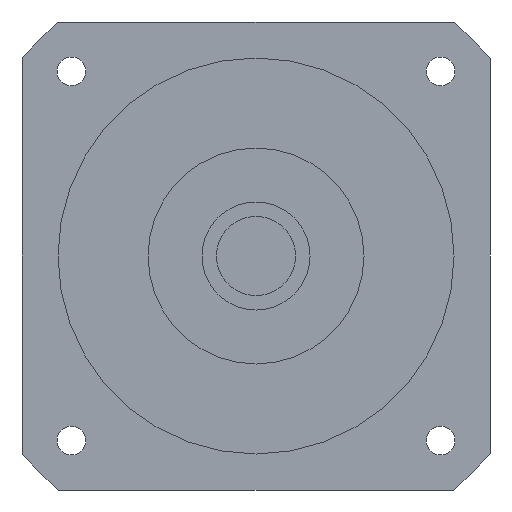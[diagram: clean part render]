
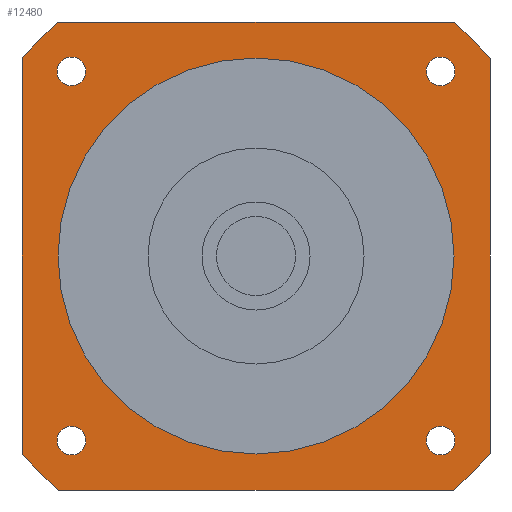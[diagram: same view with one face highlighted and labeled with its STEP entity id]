
A CAD part, left-side view. The second image highlights one B-rep face of the part: STEP entity #12480.
In plain terms, the highlighted planar face has unit normal (-1, 0, 0) as drawn and (0, 0, -1) by its records, which use the part's own axes.
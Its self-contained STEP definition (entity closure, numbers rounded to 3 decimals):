
#8880=CARTESIAN_POINT('',(47.265,-51.265,-70.4));
#8890=VERTEX_POINT('',#8880);
#8920=CARTESIAN_POINT('',(51.265,-51.265,-70.4));
#8930=DIRECTION('',(0.,0.,-1.));
#8940=DIRECTION('',(1.,0.,0.));
#8950=AXIS2_PLACEMENT_3D('',#8920,#8930,#8940);
#8960=CIRCLE('',#8950,4.);
#8970=CARTESIAN_POINT('',(55.265,-51.265,-70.4));
#8980=VERTEX_POINT('',#8970);
#8990=EDGE_CURVE('',#8980,#8890,#8960,.T.);
#9230=CARTESIAN_POINT('',(65.,-54.772,-70.4));
#9240=VERTEX_POINT('',#9230);
#9290=CARTESIAN_POINT('',(0.,0.,
-70.4));
#9300=DIRECTION('',(0.,0.,-1.));
#9310=DIRECTION('',(1.,0.,0.));
#9320=AXIS2_PLACEMENT_3D('',#9290,#9300,#9310);
#9330=CIRCLE('',#9320,85.);
#9340=CARTESIAN_POINT('',(54.772,-65.,-70.4));
#9350=VERTEX_POINT('',#9340);
#9360=EDGE_CURVE('',#9240,#9350,#9330,.T.);
#11010=CARTESIAN_POINT('',(-51.265,-47.265,-70.4));
#11020=VERTEX_POINT('',#11010);
#11050=CARTESIAN_POINT('',(-51.265,-51.265,-70.4));
#11060=DIRECTION('',(0.,0.,-1.));
#11070=DIRECTION('',(0.,-1.,0.));
#11080=AXIS2_PLACEMENT_3D('',#11050,#11060,#11070);
#11090=CIRCLE('',#11080,4.);
#11100=CARTESIAN_POINT('',(-51.265,-55.265,-70.4));
#11110=VERTEX_POINT('',#11100);
#11120=EDGE_CURVE('',#11110,#11020,#11090,.T.);
#11240=CARTESIAN_POINT('',(65.,65.,-70.4));
#11250=DIRECTION('',(0.,0.,-1.));
#11260=DIRECTION('',(1.,0.,0.));
#11270=AXIS2_PLACEMENT_3D('',#11240,#11250,#11260);
#11280=PLANE('',#11270);
#11290=ORIENTED_EDGE('',*,*,#11120,.F.);
#11300=EDGE_CURVE('',#11020,#11110,#11090,.T.);
#11310=ORIENTED_EDGE('',*,*,#11300,.F.);
#11320=EDGE_LOOP('',(#11310,#11290));
#11330=FACE_BOUND('',#11320,.T.);
#11340=CARTESIAN_POINT('',(-51.265,51.265,-70.4));
#11350=DIRECTION('',(0.,0.,-1.));
#11360=DIRECTION('',(-1.,0.,0.));
#11370=AXIS2_PLACEMENT_3D('',#11340,#11350,#11360);
#11380=CIRCLE('',#11370,4.);
#11390=CARTESIAN_POINT('',(-55.265,51.265,-70.4));
#11400=VERTEX_POINT('',#11390);
#11410=CARTESIAN_POINT('',(-47.265,51.265,-70.4));
#11420=VERTEX_POINT('',#11410);
#11430=EDGE_CURVE('',#11400,#11420,#11380,.T.);
#11440=ORIENTED_EDGE('',*,*,#11430,.F.);
#11450=EDGE_CURVE('',#11420,#11400,#11380,.T.);
#11460=ORIENTED_EDGE('',*,*,#11450,.F.);
#11470=EDGE_LOOP('',(#11460,#11440));
#11480=FACE_BOUND('',#11470,.T.);
#11490=CARTESIAN_POINT('',(51.265,51.265,-70.4));
#11500=DIRECTION('',(0.,0.,-1.));
#11510=DIRECTION('',(0.,1.,0.));
#11520=AXIS2_PLACEMENT_3D('',#11490,#11500,#11510);
#11530=CIRCLE('',#11520,4.);
#11540=CARTESIAN_POINT('',(51.265,55.265,-70.4));
#11550=VERTEX_POINT('',#11540);
#11560=CARTESIAN_POINT('',(51.265,47.265,-70.4));
#11570=VERTEX_POINT('',#11560);
#11580=EDGE_CURVE('',#11550,#11570,#11530,.T.);
#11590=ORIENTED_EDGE('',*,*,#11580,.F.);
#11600=EDGE_CURVE('',#11570,#11550,#11530,.T.);
#11610=ORIENTED_EDGE('',*,*,#11600,.F.);
#11620=EDGE_LOOP('',(#11610,#11590));
#11630=FACE_BOUND('',#11620,.T.);
#11640=CARTESIAN_POINT('',(0.,0.,
-70.4));
#11650=DIRECTION('',(0.,0.,1.));
#11660=DIRECTION('',(0.,1.,0.));
#11670=AXIS2_PLACEMENT_3D('',#11640,#11650,#11660);
#11680=CIRCLE('',#11670,55.);
#11690=CARTESIAN_POINT('',(-55.,0.,-70.4));
#11700=VERTEX_POINT('',#11690);
#11710=CARTESIAN_POINT('',(55.,0.,-70.4));
#11720=VERTEX_POINT('',#11710);
#11730=EDGE_CURVE('',#11700,#11720,#11680,.T.);
#11740=ORIENTED_EDGE('',*,*,#11730,.T.);
#11750=CARTESIAN_POINT('',(0.,55.,-70.4));
#11760=VERTEX_POINT('',#11750);
#11770=EDGE_CURVE('',#11760,#11700,#11680,.T.);
#11780=ORIENTED_EDGE('',*,*,#11770,.T.);
#11790=EDGE_CURVE('',#11720,#11760,#11680,.T.);
#11800=ORIENTED_EDGE('',*,*,#11790,.T.);
#11810=EDGE_LOOP('',(#11800,#11780,#11740));
#11820=FACE_BOUND('',#11810,.T.);
#11830=CARTESIAN_POINT('',(-65.,65.,-70.4));
#11840=DIRECTION('',(1.,0.,0.));
#11850=VECTOR('',#11840,1000.);
#11860=LINE('',#11830,#11850);
#11870=CARTESIAN_POINT('',(-54.772,65.,-70.4));
#11880=VERTEX_POINT('',#11870);
#11890=CARTESIAN_POINT('',(54.772,65.,-70.4));
#11900=VERTEX_POINT('',#11890);
#11910=EDGE_CURVE('',#11880,#11900,#11860,.T.);
#11920=ORIENTED_EDGE('',*,*,#11910,.T.);
#11930=CARTESIAN_POINT('',(0.,0.,
-70.4));
#11940=DIRECTION('',(0.,0.,-1.));
#11950=DIRECTION('',(1.,0.,0.));
#11960=AXIS2_PLACEMENT_3D('',#11930,#11940,#11950);
#11970=CIRCLE('',#11960,85.);
#11980=CARTESIAN_POINT('',(-65.,54.772,-70.4));
#11990=VERTEX_POINT('',#11980);
#12000=EDGE_CURVE('',#11990,#11880,#11970,.T.);
#12010=ORIENTED_EDGE('',*,*,#12000,.T.);
#12020=CARTESIAN_POINT('',(-65.,-65.,-70.4));
#12030=DIRECTION('',(0.,1.,0.));
#12040=VECTOR('',#12030,1000.);
#12050=LINE('',#12020,#12040);
#12060=CARTESIAN_POINT('',(-65.,-54.772,-70.4));
#12070=VERTEX_POINT('',#12060);
#12080=EDGE_CURVE('',#12070,#11990,#12050,.T.);
#12090=ORIENTED_EDGE('',*,*,#12080,.T.);
#12100=CARTESIAN_POINT('',(0.,0.,
-70.4));
#12110=DIRECTION('',(0.,0.,-1.));
#12120=DIRECTION('',(1.,0.,0.));
#12130=AXIS2_PLACEMENT_3D('',#12100,#12110,#12120);
#12140=CIRCLE('',#12130,85.);
#12150=CARTESIAN_POINT('',(-54.772,-65.,-70.4));
#12160=VERTEX_POINT('',#12150);
#12170=EDGE_CURVE('',#12160,#12070,#12140,.T.);
#12180=ORIENTED_EDGE('',*,*,#12170,.T.);
#12190=CARTESIAN_POINT('',(65.,-65.,-70.4));
#12200=DIRECTION('',(-1.,0.,0.));
#12210=VECTOR('',#12200,1000.);
#12220=LINE('',#12190,#12210);
#12230=EDGE_CURVE('',#9350,#12160,#12220,.T.);
#12240=ORIENTED_EDGE('',*,*,#12230,.T.);
#12250=ORIENTED_EDGE('',*,*,#9360,.T.);
#12260=CARTESIAN_POINT('',(65.,65.,-70.4));
#12270=DIRECTION('',(0.,-1.,0.));
#12280=VECTOR('',#12270,1000.);
#12290=LINE('',#12260,#12280);
#12300=CARTESIAN_POINT('',(65.,54.772,-70.4));
#12310=VERTEX_POINT('',#12300);
#12320=EDGE_CURVE('',#12310,#9240,#12290,.T.);
#12330=ORIENTED_EDGE('',*,*,#12320,.T.);
#12340=CARTESIAN_POINT('',(0.,0.,
-70.4));
#12350=DIRECTION('',(0.,0.,-1.));
#12360=DIRECTION('',(1.,0.,0.));
#12370=AXIS2_PLACEMENT_3D('',#12340,#12350,#12360);
#12380=CIRCLE('',#12370,85.);
#12390=EDGE_CURVE('',#11900,#12310,#12380,.T.);
#12400=ORIENTED_EDGE('',*,*,#12390,.T.);
#12410=EDGE_LOOP('',(#12400,#12330,#12250,#12240,#12180,#12090,#12010,
#11920));
#12420=FACE_OUTER_BOUND('',#12410,.T.);
#12430=ORIENTED_EDGE('',*,*,#8990,.F.);
#12440=EDGE_CURVE('',#8890,#8980,#8960,.T.);
#12450=ORIENTED_EDGE('',*,*,#12440,.F.);
#12460=EDGE_LOOP('',(#12450,#12430));
#12470=FACE_BOUND('',#12460,.T.);
#12480=ADVANCED_FACE('',(#11330,#11480,#11630,#11820,#12420,#12470),
#11280,.T.);
